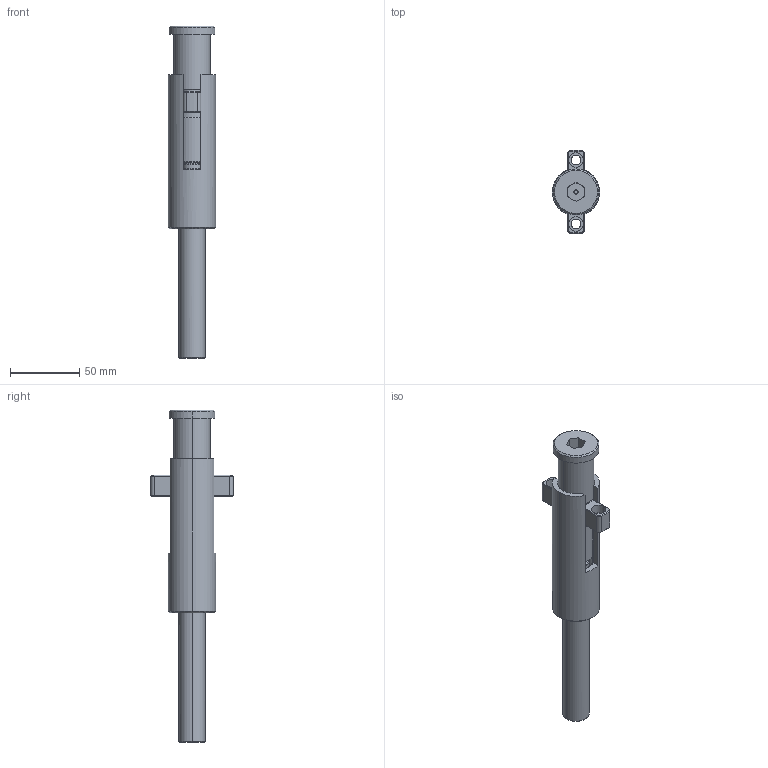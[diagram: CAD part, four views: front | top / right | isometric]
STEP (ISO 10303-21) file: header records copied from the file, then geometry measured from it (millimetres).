
FILE_DESCRIPTION (( 'STEP AP203' ), '1' );
FILE_NAME ('DKL3411.STEP', '2013-08-26T10:43:17', ( '' ), ( '' ), 'SwSTEP 2.0', 'SolidWorks 2013', '' );
FILE_SCHEMA (( 'CONFIG_CONTROL_DESIGN' ));
Length unit declared in the file: millimetre
Products named in the file (9): DKL3051; DKL3021; DKL3041; DKL3081; DKL3071; DKL3011; DKL3411; DKL3031; DKL3062
Assembly tree (11 placements, depth 2):
  DKL3411
    DKL3031
    DKL3062  x4
    DKL3051
    DKL3021
    DKL3041
    DKL3081
    DKL3071
    DKL3011
Bounding box: 34 x 59.94 x 239 mm (x, y, z)
Volume: 125084 mm3; surface area: 52667 mm2
Topology: 11 solids, 11 shells, 489 faces, 1151 edges, 692 vertices
Faces by surface type: plane 158, cylinder 142, cone 127, torus 56, bspline 6
Entity records: 16486 total; most frequent: CARTESIAN_POINT 5884, DIRECTION 2155, ORIENTED_EDGE 1918, EDGE_CURVE 959, AXIS2_PLACEMENT_3D 870, VERTEX_POINT 581, EDGE_LOOP 452, CIRCLE 451
